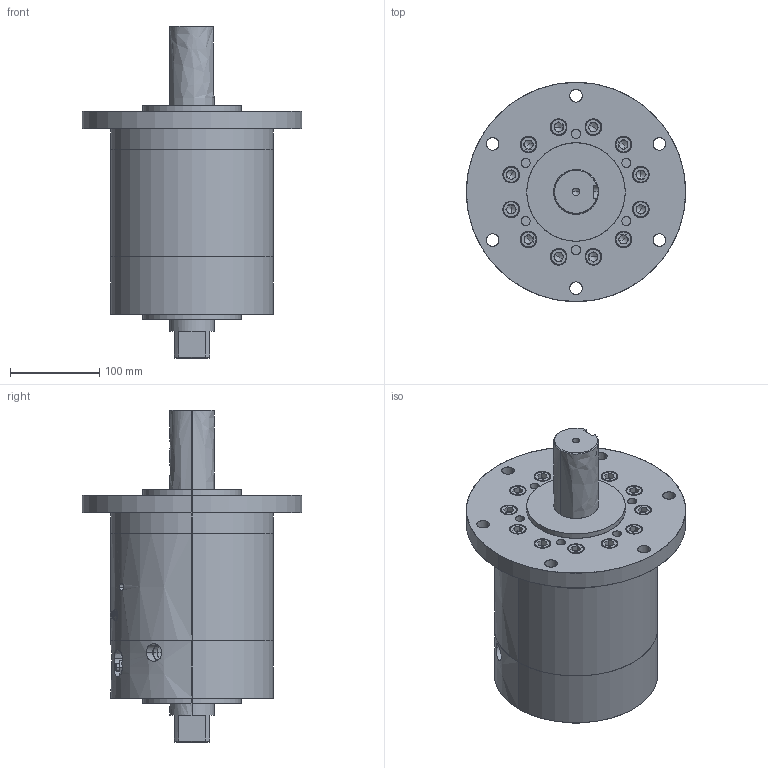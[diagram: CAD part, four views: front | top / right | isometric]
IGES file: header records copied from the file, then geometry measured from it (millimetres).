
Start section: SolidWorks IGES file using analytic representation for surfaces
Global section: file name: C:\Users\Chieh_Lu\Dropbox\¤u§@«Ç\HRN\HRN700S-C.IGS; native system: SolidWorks 2014; preprocessor: SolidWorks 2014; author: Chieh_Lu; date: 160115.010453; units: millimetre
Bounding box: 245 x 245 x 371 mm (x, y, z)
Surface area: 569102.1 mm2 (no closed solid volume)
Topology: 0 solids, 0 shells, 1047 faces, 14180 edges, 14108 vertices
Faces by surface type: bspline 611, revolution 436
